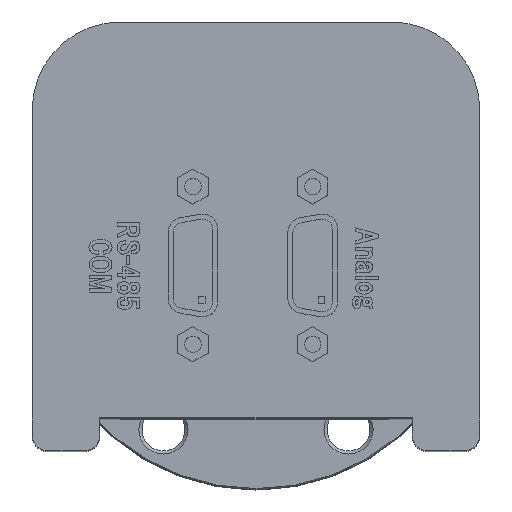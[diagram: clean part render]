
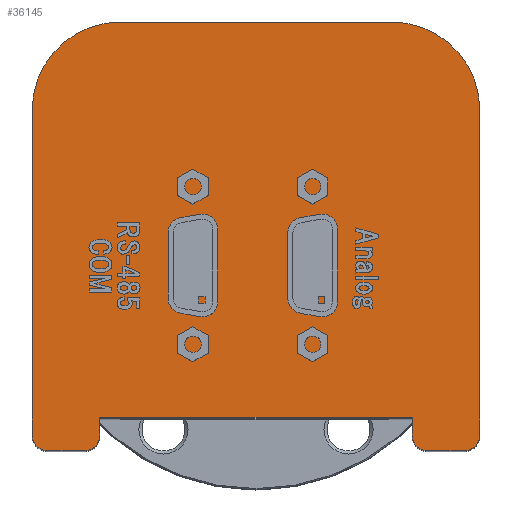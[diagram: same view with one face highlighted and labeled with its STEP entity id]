
A CAD part, top view. The second image highlights one B-rep face of the part: STEP entity #36145.
In plain terms, the highlighted planar face has unit normal (0, 0, 1).
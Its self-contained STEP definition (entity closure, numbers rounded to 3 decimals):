
#2970=FACE_OUTER_BOUND('',#5032,.T.);
#5032=EDGE_LOOP('',(#24537,#24538,#24539,#24540,#24541,#24542,#24543,#24544,
#24545,#24546,#24547,#24548,#24549,#24550));
#7304=LINE('',#46943,#11056);
#7308=LINE('',#46955,#11060);
#7312=LINE('',#46967,#11064);
#7316=LINE('',#46979,#11068);
#7320=LINE('',#46991,#11072);
#7323=LINE('',#46997,#11075);
#7326=LINE('',#47003,#11078);
#7330=LINE('',#47015,#11082);
#11056=VECTOR('',#40288,10.);
#11060=VECTOR('',#40300,10.);
#11064=VECTOR('',#40312,10.);
#11068=VECTOR('',#40324,10.);
#11072=VECTOR('',#40336,10.);
#11075=VECTOR('',#40341,10.);
#11078=VECTOR('',#40346,10.);
#11082=VECTOR('',#40358,10.);
#14714=CIRCLE('',#38410,14.);
#14716=CIRCLE('',#38414,14.);
#14718=CIRCLE('',#38418,2.5);
#14720=CIRCLE('',#38422,2.5);
#14722=CIRCLE('',#38428,2.5);
#14724=CIRCLE('',#38432,2.5);
#14992=VERTEX_POINT('',#46940);
#14993=VERTEX_POINT('',#46942);
#14995=VERTEX_POINT('',#46948);
#14997=VERTEX_POINT('',#46954);
#14999=VERTEX_POINT('',#46960);
#15001=VERTEX_POINT('',#46966);
#15003=VERTEX_POINT('',#46972);
#15005=VERTEX_POINT('',#46978);
#15007=VERTEX_POINT('',#46984);
#15009=VERTEX_POINT('',#46990);
#15011=VERTEX_POINT('',#46996);
#15013=VERTEX_POINT('',#47002);
#15015=VERTEX_POINT('',#47008);
#15017=VERTEX_POINT('',#47014);
#18731=EDGE_CURVE('',#14993,#14992,#7304,.T.);
#18734=EDGE_CURVE('',#14995,#14993,#14714,.T.);
#18737=EDGE_CURVE('',#14997,#14995,#7308,.T.);
#18740=EDGE_CURVE('',#14999,#14997,#14716,.T.);
#18743=EDGE_CURVE('',#15001,#14999,#7312,.T.);
#18746=EDGE_CURVE('',#15003,#15001,#14718,.T.);
#18749=EDGE_CURVE('',#15005,#15003,#7316,.T.);
#18752=EDGE_CURVE('',#15007,#15005,#14720,.T.);
#18755=EDGE_CURVE('',#15009,#15007,#7320,.T.);
#18758=EDGE_CURVE('',#15011,#15009,#7323,.T.);
#18761=EDGE_CURVE('',#15013,#15011,#7326,.T.);
#18764=EDGE_CURVE('',#15015,#15013,#14722,.T.);
#18767=EDGE_CURVE('',#15017,#15015,#7330,.T.);
#18770=EDGE_CURVE('',#14992,#15017,#14724,.T.);
#24537=ORIENTED_EDGE('',*,*,#18770,.T.);
#24538=ORIENTED_EDGE('',*,*,#18767,.T.);
#24539=ORIENTED_EDGE('',*,*,#18764,.T.);
#24540=ORIENTED_EDGE('',*,*,#18761,.T.);
#24541=ORIENTED_EDGE('',*,*,#18758,.T.);
#24542=ORIENTED_EDGE('',*,*,#18755,.T.);
#24543=ORIENTED_EDGE('',*,*,#18752,.T.);
#24544=ORIENTED_EDGE('',*,*,#18749,.T.);
#24545=ORIENTED_EDGE('',*,*,#18746,.T.);
#24546=ORIENTED_EDGE('',*,*,#18743,.T.);
#24547=ORIENTED_EDGE('',*,*,#18740,.T.);
#24548=ORIENTED_EDGE('',*,*,#18737,.T.);
#24549=ORIENTED_EDGE('',*,*,#18734,.T.);
#24550=ORIENTED_EDGE('',*,*,#18731,.T.);
#34912=PLANE('',#38433);
#36145=ADVANCED_FACE('',(#2970),#34912,.T.);
#38410=AXIS2_PLACEMENT_3D('',#46949,#40294,#40295);
#38414=AXIS2_PLACEMENT_3D('',#46961,#40306,#40307);
#38418=AXIS2_PLACEMENT_3D('',#46973,#40318,#40319);
#38422=AXIS2_PLACEMENT_3D('',#46985,#40330,#40331);
#38428=AXIS2_PLACEMENT_3D('',#47009,#40352,#40353);
#38432=AXIS2_PLACEMENT_3D('',#47019,#40364,#40365);
#38433=AXIS2_PLACEMENT_3D('',#47020,#40366,#40367);
#40288=DIRECTION('',(0.,-1.,0.));
#40294=DIRECTION('center_axis',(0.,0.,1.));
#40295=DIRECTION('ref_axis',(0.,1.,0.));
#40300=DIRECTION('',(-1.,0.,0.));
#40306=DIRECTION('center_axis',(0.,0.,1.));
#40307=DIRECTION('ref_axis',(1.,0.,0.));
#40312=DIRECTION('',(0.,1.,0.));
#40318=DIRECTION('center_axis',(0.,0.,1.));
#40319=DIRECTION('ref_axis',(0.,-1.,0.));
#40324=DIRECTION('',(1.,0.,0.));
#40330=DIRECTION('center_axis',(0.,0.,1.));
#40331=DIRECTION('ref_axis',(-1.,0.,0.));
#40336=DIRECTION('',(0.,-1.,0.));
#40341=DIRECTION('',(1.,0.,0.));
#40346=DIRECTION('',(0.,1.,0.));
#40352=DIRECTION('center_axis',(0.,0.,1.));
#40353=DIRECTION('ref_axis',(0.,-1.,0.));
#40358=DIRECTION('',(1.,0.,0.));
#40364=DIRECTION('center_axis',(0.,0.,1.));
#40365=DIRECTION('ref_axis',(-1.,0.,0.));
#40366=DIRECTION('center_axis',(0.,0.,1.));
#40367=DIRECTION('ref_axis',(0.,1.,0.));
#46940=CARTESIAN_POINT('',(-35.5,-26.5,82.));
#46942=CARTESIAN_POINT('',(-35.5,25.,82.));
#46943=CARTESIAN_POINT('',(-35.5,5.,82.));
#46948=CARTESIAN_POINT('',(-21.5,39.,82.));
#46949=CARTESIAN_POINT('Origin',(-21.5,25.,82.));
#46954=CARTESIAN_POINT('',(21.5,39.,82.));
#46955=CARTESIAN_POINT('',(0.,39.,82.));
#46960=CARTESIAN_POINT('',(35.5,25.,82.));
#46961=CARTESIAN_POINT('Origin',(21.5,25.,82.));
#46966=CARTESIAN_POINT('',(35.5,-26.5,82.));
#46967=CARTESIAN_POINT('',(35.5,5.,82.));
#46972=CARTESIAN_POINT('',(33.,-29.,82.));
#46973=CARTESIAN_POINT('Origin',(33.,-26.5,82.));
#46978=CARTESIAN_POINT('',(27.25,-29.,82.));
#46979=CARTESIAN_POINT('',(0.,-29.,82.));
#46984=CARTESIAN_POINT('',(24.75,-26.5,82.));
#46985=CARTESIAN_POINT('Origin',(27.25,-26.5,82.));
#46990=CARTESIAN_POINT('',(24.75,-23.7,82.));
#46991=CARTESIAN_POINT('',(24.75,-9.35,82.));
#46996=CARTESIAN_POINT('',(-24.75,-23.7,82.));
#46997=CARTESIAN_POINT('',(-12.375,-23.7,82.));
#47002=CARTESIAN_POINT('',(-24.75,-26.5,82.));
#47003=CARTESIAN_POINT('',(-24.75,-10.75,82.));
#47008=CARTESIAN_POINT('',(-27.25,-29.,82.));
#47009=CARTESIAN_POINT('Origin',(-27.25,-26.5,82.));
#47014=CARTESIAN_POINT('',(-33.,-29.,82.));
#47015=CARTESIAN_POINT('',(0.,-29.,82.));
#47019=CARTESIAN_POINT('Origin',(-33.,-26.5,82.));
#47020=CARTESIAN_POINT('Origin',(0.,5.,82.));
